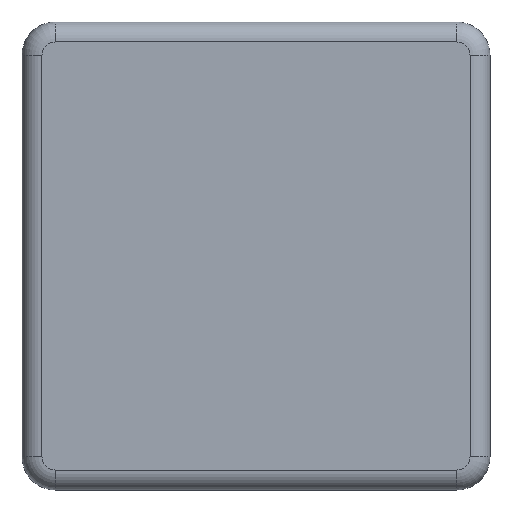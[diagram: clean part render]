
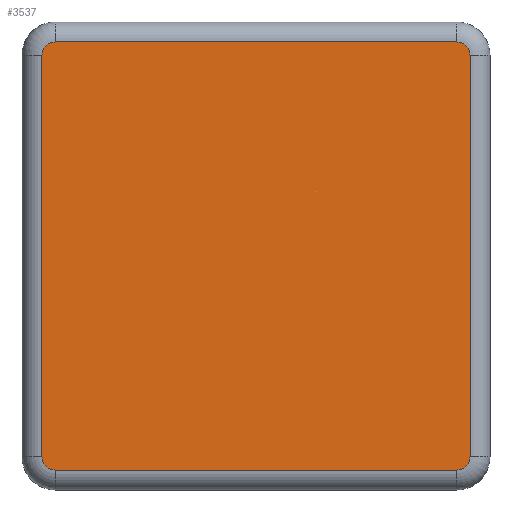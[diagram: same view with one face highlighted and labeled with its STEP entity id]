
A CAD part, front view. The second image highlights one B-rep face of the part: STEP entity #3537.
In plain terms, the highlighted planar face has unit normal (0, -1, 0).
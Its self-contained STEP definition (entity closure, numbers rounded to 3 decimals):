
#8 = CARTESIAN_POINT ( 'NONE',  ( -30.25, 0., 32.25 ) ) ;
#144 = AXIS2_PLACEMENT_3D ( 'NONE', #1215, #2654, #2468 ) ;
#167 = CIRCLE ( 'NONE', #5146, 2. ) ;
#177 = AXIS2_PLACEMENT_3D ( 'NONE', #813, #809, #786 ) ;
#182 = VECTOR ( 'NONE', #2945, 1000. ) ;
#293 = DIRECTION ( 'NONE',  ( 0., 0., 1. ) ) ;
#381 = ORIENTED_EDGE ( 'NONE', *, *, #3151, .T. ) ;
#441 = LINE ( 'NONE', #5118, #1361 ) ;
#474 = CARTESIAN_POINT ( 'NONE',  ( -30.25, 0., 30.25 ) ) ;
#502 = VERTEX_POINT ( 'NONE', #4035 ) ;
#557 = CARTESIAN_POINT ( 'NONE',  ( 30.25, 0., -32.25 ) ) ;
#606 = DIRECTION ( 'NONE',  ( 0., 0., -1. ) ) ;
#642 = DIRECTION ( 'NONE',  ( 0., -1., 0. ) ) ;
#661 = CARTESIAN_POINT ( 'NONE',  ( -30.25, 0., -30.25 ) ) ;
#687 = ORIENTED_EDGE ( 'NONE', *, *, #3696, .T. ) ;
#690 = VERTEX_POINT ( 'NONE', #2085 ) ;
#786 = DIRECTION ( 'NONE',  ( 0., 0., -1. ) ) ;
#795 = EDGE_CURVE ( 'NONE', #502, #2280, #167, .T. ) ;
#809 = DIRECTION ( 'NONE',  ( 0., -1., 0. ) ) ;
#813 = CARTESIAN_POINT ( 'NONE',  ( 30.25, 0., 30.25 ) ) ;
#876 = DIRECTION ( 'NONE',  ( 0., -1., 0. ) ) ;
#925 = LINE ( 'NONE', #1389, #2003 ) ;
#935 = LINE ( 'NONE', #8, #4913 ) ;
#947 = EDGE_LOOP ( 'NONE', ( #3303, #3724, #687, #3000, #1483, #4164, #381, #1060 ) ) ;
#1060 = ORIENTED_EDGE ( 'NONE', *, *, #2992, .T. ) ;
#1157 = DIRECTION ( 'NONE',  ( 0., 0., -1. ) ) ;
#1175 = DIRECTION ( 'NONE',  ( 0., -1., 0. ) ) ;
#1196 = CARTESIAN_POINT ( 'NONE',  ( -30.25, 0., 30.25 ) ) ;
#1215 = CARTESIAN_POINT ( 'NONE',  ( 30.25, 0., -30.25 ) ) ;
#1243 = DIRECTION ( 'NONE',  ( 0., 0., -1. ) ) ;
#1261 = VERTEX_POINT ( 'NONE', #1450 ) ;
#1361 = VECTOR ( 'NONE', #293, 1000. ) ;
#1389 = CARTESIAN_POINT ( 'NONE',  ( -32.25, 0., -30.25 ) ) ;
#1413 = CARTESIAN_POINT ( 'NONE',  ( 32.25, 0., 30.25 ) ) ;
#1450 = CARTESIAN_POINT ( 'NONE',  ( 32.25, 0., -30.25 ) ) ;
#1483 = ORIENTED_EDGE ( 'NONE', *, *, #3670, .T. ) ;
#1615 = CIRCLE ( 'NONE', #1843, 2. ) ;
#1623 = CIRCLE ( 'NONE', #144, 2. ) ;
#1639 = VERTEX_POINT ( 'NONE', #3750 ) ;
#1843 = AXIS2_PLACEMENT_3D ( 'NONE', #1196, #1175, #1157 ) ;
#2003 = VECTOR ( 'NONE', #1243, 1000. ) ;
#2006 = FACE_OUTER_BOUND ( 'NONE', #947, .T. ) ;
#2085 = CARTESIAN_POINT ( 'NONE',  ( -32.25, 0., 30.25 ) ) ;
#2280 = VERTEX_POINT ( 'NONE', #2758 ) ;
#2397 = EDGE_CURVE ( 'NONE', #690, #502, #925, .T. ) ;
#2450 = EDGE_CURVE ( 'NONE', #2975, #3465, #4904, .T. ) ;
#2468 = DIRECTION ( 'NONE',  ( 0., 0., -1. ) ) ;
#2654 = DIRECTION ( 'NONE',  ( 0., -1., 0. ) ) ;
#2719 = AXIS2_PLACEMENT_3D ( 'NONE', #474, #876, #3671 ) ;
#2758 = CARTESIAN_POINT ( 'NONE',  ( -30.25, 0., -32.25 ) ) ;
#2863 = PLANE ( 'NONE',  #2719 ) ;
#2945 = DIRECTION ( 'NONE',  ( 1., 0., 0. ) ) ;
#2975 = VERTEX_POINT ( 'NONE', #1413 ) ;
#2992 = EDGE_CURVE ( 'NONE', #4465, #690, #1615, .T. ) ;
#3000 = ORIENTED_EDGE ( 'NONE', *, *, #3242, .T. ) ;
#3151 = EDGE_CURVE ( 'NONE', #3465, #4465, #935, .T. ) ;
#3242 = EDGE_CURVE ( 'NONE', #1639, #1261, #1623, .T. ) ;
#3303 = ORIENTED_EDGE ( 'NONE', *, *, #2397, .T. ) ;
#3375 = LINE ( 'NONE', #557, #182 ) ;
#3465 = VERTEX_POINT ( 'NONE', #4983 ) ;
#3537 = ADVANCED_FACE ( 'NONE', ( #2006 ), #2863, .T. ) ;
#3670 = EDGE_CURVE ( 'NONE', #1261, #2975, #441, .T. ) ;
#3671 = DIRECTION ( 'NONE',  ( 0., 0., -1. ) ) ;
#3696 = EDGE_CURVE ( 'NONE', #2280, #1639, #3375, .T. ) ;
#3724 = ORIENTED_EDGE ( 'NONE', *, *, #795, .T. ) ;
#3750 = CARTESIAN_POINT ( 'NONE',  ( 30.25, 0., -32.25 ) ) ;
#4035 = CARTESIAN_POINT ( 'NONE',  ( -32.25, 0., -30.25 ) ) ;
#4086 = CARTESIAN_POINT ( 'NONE',  ( -30.25, 0., 32.25 ) ) ;
#4164 = ORIENTED_EDGE ( 'NONE', *, *, #2450, .T. ) ;
#4465 = VERTEX_POINT ( 'NONE', #4086 ) ;
#4904 = CIRCLE ( 'NONE', #177, 2. ) ;
#4913 = VECTOR ( 'NONE', #5137, 1000. ) ;
#4983 = CARTESIAN_POINT ( 'NONE',  ( 30.25, 0., 32.25 ) ) ;
#5118 = CARTESIAN_POINT ( 'NONE',  ( 32.25, 0., 30.25 ) ) ;
#5137 = DIRECTION ( 'NONE',  ( -1., 0., 0. ) ) ;
#5146 = AXIS2_PLACEMENT_3D ( 'NONE', #661, #642, #606 ) ;
